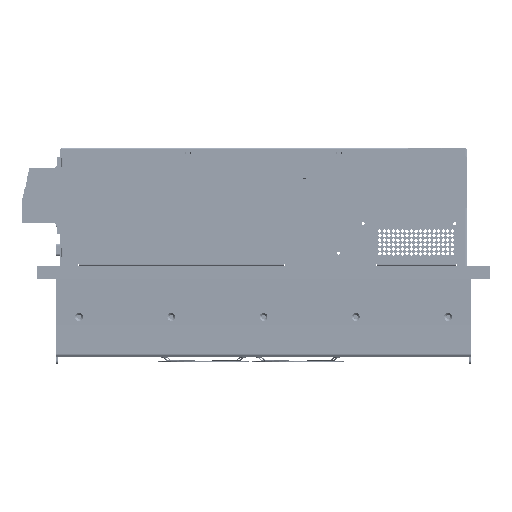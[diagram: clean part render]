
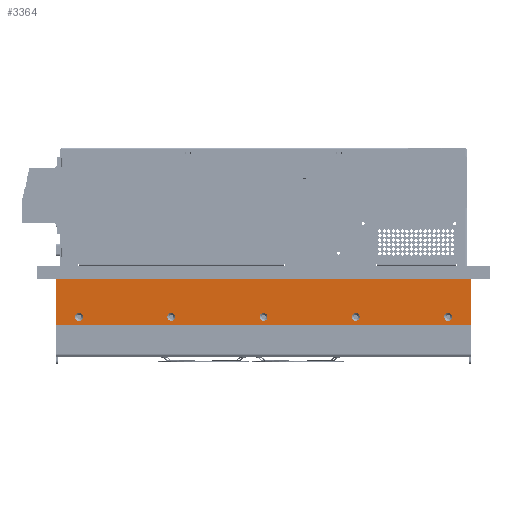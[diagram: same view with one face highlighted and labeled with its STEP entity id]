
A CAD part, left-side view. The second image highlights one B-rep face of the part: STEP entity #3364.
In plain terms, the highlighted planar face has unit normal (-1, 0, -0.024) as drawn and (1, 0, -0.024) by its records, which use the part's own axes.
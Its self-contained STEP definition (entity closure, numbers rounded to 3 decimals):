
#1367 = CARTESIAN_POINT ( 'NONE',  ( 303.692, -55.5, -50.003 ) ) ;
#1369 = DIRECTION ( 'NONE',  ( 1., 0., -0.024 ) ) ;
#1371 = DIRECTION ( 'NONE',  ( -0.024, 0., -1. ) ) ;
#1461 = CARTESIAN_POINT ( 'NONE',  ( 303.692, -177.75, -50.003 ) ) ;
#1463 = DIRECTION ( 'NONE',  ( 1., 0., -0.024 ) ) ;
#1464 = DIRECTION ( 'NONE',  ( -0.024, 0., -1. ) ) ;
#1556 = CARTESIAN_POINT ( 'NONE',  ( 303.692, -422.25, -50.003 ) ) ;
#1558 = DIRECTION ( 'NONE',  ( 1., 0., -0.024 ) ) ;
#1559 = DIRECTION ( 'NONE',  ( -0.024, 0., -1. ) ) ;
#1647 = CARTESIAN_POINT ( 'NONE',  ( 303.692, -544.5, -50.003 ) ) ;
#1649 = DIRECTION ( 'NONE',  ( 1., 0., -0.024 ) ) ;
#1651 = DIRECTION ( 'NONE',  ( -0.024, 0., -1. ) ) ;
#1740 = CARTESIAN_POINT ( 'NONE',  ( 303.692, -300., -50.003 ) ) ;
#1743 = DIRECTION ( 'NONE',  ( 1., 0., -0.024 ) ) ;
#1745 = DIRECTION ( 'NONE',  ( -0.024, 0., -1. ) ) ;
#3364 = ADVANCED_FACE ( 'NONE', ( #161638, #161622, #161629, #161634, #161640, #161642 ), #158955, .T. ) ;
#14605 = ORIENTED_EDGE ( 'NONE', *, *, #58125, .F. ) ;
#14607 = ORIENTED_EDGE ( 'NONE', *, *, #101109, .F. ) ;
#14609 = ORIENTED_EDGE ( 'NONE', *, *, #58126, .F. ) ;
#14611 = ORIENTED_EDGE ( 'NONE', *, *, #101130, .F. ) ;
#14613 = ORIENTED_EDGE ( 'NONE', *, *, #58127, .F. ) ;
#14615 = ORIENTED_EDGE ( 'NONE', *, *, #101164, .F. ) ;
#14617 = ORIENTED_EDGE ( 'NONE', *, *, #58128, .F. ) ;
#14619 = ORIENTED_EDGE ( 'NONE', *, *, #101197, .F. ) ;
#14622 = ORIENTED_EDGE ( 'NONE', *, *, #58129, .F. ) ;
#14623 = ORIENTED_EDGE ( 'NONE', *, *, #101229, .F. ) ;
#14625 = ORIENTED_EDGE ( 'NONE', *, *, #58124, .F. ) ;
#14627 = ORIENTED_EDGE ( 'NONE', *, *, #58130, .T. ) ;
#14629 = ORIENTED_EDGE ( 'NONE', *, *, #58131, .F. ) ;
#14631 = ORIENTED_EDGE ( 'NONE', *, *, #57972, .F. ) ;
#43849 = CARTESIAN_POINT ( 'NONE',  ( 304.9, -574.5, 0. ) ) ;
#43852 = CARTESIAN_POINT ( 'NONE',  ( 304.9, -25.5, 0. ) ) ;
#45310 = EDGE_LOOP ( 'NONE', ( #14609, #14611 ) ) ;
#45320 = EDGE_LOOP ( 'NONE', ( #14605, #14607 ) ) ;
#45355 = EDGE_LOOP ( 'NONE', ( #14617, #14619 ) ) ;
#45360 = EDGE_LOOP ( 'NONE', ( #14625, #14627, #14629, #14631 ) ) ;
#45367 = EDGE_LOOP ( 'NONE', ( #14622, #14623 ) ) ;
#45370 = EDGE_LOOP ( 'NONE', ( #14613, #14615 ) ) ;
#57972 = EDGE_CURVE ( 'NONE', #118761, #118729, #76051, .T. ) ;
#58124 = EDGE_CURVE ( 'NONE', #96474, #118761, #76375, .T. ) ;
#58125 = EDGE_CURVE ( 'NONE', #58288, #58342, #76378, .T. ) ;
#58126 = EDGE_CURVE ( 'NONE', #58357, #58394, #76373, .T. ) ;
#58127 = EDGE_CURVE ( 'NONE', #58227, #58316, #76382, .T. ) ;
#58128 = EDGE_CURVE ( 'NONE', #58200, #58194, #76384, .T. ) ;
#58129 = EDGE_CURVE ( 'NONE', #58279, #58686, #76386, .T. ) ;
#58130 = EDGE_CURVE ( 'NONE', #96474, #96470, #76388, .T. ) ;
#58131 = EDGE_CURVE ( 'NONE', #118729, #96470, #76390, .T. ) ;
#58194 = VERTEX_POINT ( 'NONE', #61253 ) ;
#58200 = VERTEX_POINT ( 'NONE', #61234 ) ;
#58227 = VERTEX_POINT ( 'NONE', #61517 ) ;
#58279 = VERTEX_POINT ( 'NONE', #61914 ) ;
#58288 = VERTEX_POINT ( 'NONE', #61986 ) ;
#58316 = VERTEX_POINT ( 'NONE', #62200 ) ;
#58342 = VERTEX_POINT ( 'NONE', #62373 ) ;
#58357 = VERTEX_POINT ( 'NONE', #62457 ) ;
#58394 = VERTEX_POINT ( 'NONE', #62712 ) ;
#58686 = VERTEX_POINT ( 'NONE', #183140 ) ;
#61234 = CARTESIAN_POINT ( 'NONE',  ( 303.566, -544.5, -55.201 ) ) ;
#61253 = CARTESIAN_POINT ( 'NONE',  ( 303.817, -544.5, -44.804 ) ) ;
#61517 = CARTESIAN_POINT ( 'NONE',  ( 303.566, -422.25, -55.201 ) ) ;
#61914 = CARTESIAN_POINT ( 'NONE',  ( 303.566, -300., -55.201 ) ) ;
#61986 = CARTESIAN_POINT ( 'NONE',  ( 303.566, -55.5, -55.201 ) ) ;
#62200 = CARTESIAN_POINT ( 'NONE',  ( 303.817, -422.25, -44.804 ) ) ;
#62373 = CARTESIAN_POINT ( 'NONE',  ( 303.817, -55.5, -44.804 ) ) ;
#62457 = CARTESIAN_POINT ( 'NONE',  ( 303.566, -177.75, -55.201 ) ) ;
#62712 = CARTESIAN_POINT ( 'NONE',  ( 303.817, -177.75, -44.804 ) ) ;
#68842 = CARTESIAN_POINT ( 'NONE',  ( 303.45, -574.5, -60. ) ) ;
#68888 = CARTESIAN_POINT ( 'NONE',  ( 303.45, -25.5, -60. ) ) ;
#76051 = LINE ( 'NONE', #94069, #76056 ) ;
#76056 = VECTOR ( 'NONE', #94082, 1000. ) ;
#76373 = CIRCLE ( 'NONE', #143143, 5.2 ) ;
#76375 = LINE ( 'NONE', #94918, #76380 ) ;
#76378 = CIRCLE ( 'NONE', #143128, 5.2 ) ;
#76380 = VECTOR ( 'NONE', #94920, 1000. ) ;
#76382 = CIRCLE ( 'NONE', #143145, 5.2 ) ;
#76384 = CIRCLE ( 'NONE', #143148, 5.2 ) ;
#76386 = CIRCLE ( 'NONE', #143150, 5.2 ) ;
#76388 = LINE ( 'NONE', #94960, #76394 ) ;
#76390 = LINE ( 'NONE', #94958, #76398 ) ;
#76394 = VECTOR ( 'NONE', #94909, 1000. ) ;
#76398 = VECTOR ( 'NONE', #94972, 1000. ) ;
#86542 = AXIS2_PLACEMENT_3D ( 'NONE', #1367, #1369, #1371 ) ;
#86545 = AXIS2_PLACEMENT_3D ( 'NONE', #1461, #1463, #1464 ) ;
#86548 = AXIS2_PLACEMENT_3D ( 'NONE', #1556, #1558, #1559 ) ;
#86551 = AXIS2_PLACEMENT_3D ( 'NONE', #1647, #1649, #1651 ) ;
#86554 = AXIS2_PLACEMENT_3D ( 'NONE', #1740, #1743, #1745 ) ;
#94069 = CARTESIAN_POINT ( 'NONE',  ( 303.45, 60.28, -60. ) ) ;
#94082 = DIRECTION ( 'NONE',  ( 0., -1., 0. ) ) ;
#94909 = DIRECTION ( 'NONE',  ( 0., -1., 0. ) ) ;
#94918 = CARTESIAN_POINT ( 'NONE',  ( 304.9, -25.5, 0. ) ) ;
#94920 = DIRECTION ( 'NONE',  ( -0.024, 0., -1. ) ) ;
#94929 = CARTESIAN_POINT ( 'NONE',  ( 303.692, -55.5, -50.003 ) ) ;
#94930 = DIRECTION ( 'NONE',  ( 1., 0., -0.024 ) ) ;
#94932 = DIRECTION ( 'NONE',  ( -0.024, 0., -1. ) ) ;
#94936 = CARTESIAN_POINT ( 'NONE',  ( 303.692, -177.75, -50.003 ) ) ;
#94938 = DIRECTION ( 'NONE',  ( 1., 0., -0.024 ) ) ;
#94940 = DIRECTION ( 'NONE',  ( -0.024, 0., -1. ) ) ;
#94944 = CARTESIAN_POINT ( 'NONE',  ( 303.692, -422.25, -50.003 ) ) ;
#94946 = DIRECTION ( 'NONE',  ( 1., 0., -0.024 ) ) ;
#94948 = DIRECTION ( 'NONE',  ( -0.024, 0., -1. ) ) ;
#94953 = CARTESIAN_POINT ( 'NONE',  ( 303.692, -544.5, -50.003 ) ) ;
#94955 = DIRECTION ( 'NONE',  ( 1., 0., -0.024 ) ) ;
#94957 = DIRECTION ( 'NONE',  ( -0.024, 0., -1. ) ) ;
#94958 = CARTESIAN_POINT ( 'NONE',  ( 304.9, -574.5, 0. ) ) ;
#94960 = CARTESIAN_POINT ( 'NONE',  ( 304.9, 60.28, 0. ) ) ;
#94963 = CARTESIAN_POINT ( 'NONE',  ( 303.692, -300., -50.003 ) ) ;
#94965 = DIRECTION ( 'NONE',  ( 1., 0., -0.024 ) ) ;
#94967 = DIRECTION ( 'NONE',  ( -0.024, 0., -1. ) ) ;
#94972 = DIRECTION ( 'NONE',  ( 0.024, 0., 1. ) ) ;
#96470 = VERTEX_POINT ( 'NONE', #43849 ) ;
#96474 = VERTEX_POINT ( 'NONE', #43852 ) ;
#101109 = EDGE_CURVE ( 'NONE', #58342, #58288, #148704, .T. ) ;
#101130 = EDGE_CURVE ( 'NONE', #58394, #58357, #148742, .T. ) ;
#101164 = EDGE_CURVE ( 'NONE', #58316, #58227, #148780, .T. ) ;
#101197 = EDGE_CURVE ( 'NONE', #58194, #58200, #148816, .T. ) ;
#101229 = EDGE_CURVE ( 'NONE', #58686, #58279, #148852, .T. ) ;
#118729 = VERTEX_POINT ( 'NONE', #68842 ) ;
#118761 = VERTEX_POINT ( 'NONE', #68888 ) ;
#143128 = AXIS2_PLACEMENT_3D ( 'NONE', #94929, #94930, #94932 ) ;
#143143 = AXIS2_PLACEMENT_3D ( 'NONE', #94936, #94938, #94940 ) ;
#143145 = AXIS2_PLACEMENT_3D ( 'NONE', #94944, #94946, #94948 ) ;
#143148 = AXIS2_PLACEMENT_3D ( 'NONE', #94953, #94955, #94957 ) ;
#143150 = AXIS2_PLACEMENT_3D ( 'NONE', #94963, #94965, #94967 ) ;
#148704 = CIRCLE ( 'NONE', #86542, 5.2 ) ;
#148742 = CIRCLE ( 'NONE', #86545, 5.2 ) ;
#148780 = CIRCLE ( 'NONE', #86548, 5.2 ) ;
#148816 = CIRCLE ( 'NONE', #86551, 5.2 ) ;
#148852 = CIRCLE ( 'NONE', #86554, 5.2 ) ;
#158955 = PLANE ( 'NONE',  #167731 ) ;
#158959 = CARTESIAN_POINT ( 'NONE',  ( 304.9, 60.28, 0. ) ) ;
#158962 = DIRECTION ( 'NONE',  ( 1., 0., -0.024 ) ) ;
#158964 = DIRECTION ( 'NONE',  ( -0.024, 0., -1. ) ) ;
#161622 = FACE_BOUND ( 'NONE', #45310, .T. ) ;
#161629 = FACE_BOUND ( 'NONE', #45370, .T. ) ;
#161634 = FACE_BOUND ( 'NONE', #45355, .T. ) ;
#161638 = FACE_BOUND ( 'NONE', #45320, .T. ) ;
#161640 = FACE_BOUND ( 'NONE', #45367, .T. ) ;
#161642 = FACE_OUTER_BOUND ( 'NONE', #45360, .T. ) ;
#167731 = AXIS2_PLACEMENT_3D ( 'NONE', #158959, #158962, #158964 ) ;
#183140 = CARTESIAN_POINT ( 'NONE',  ( 303.817, -300., -44.804 ) ) ;
